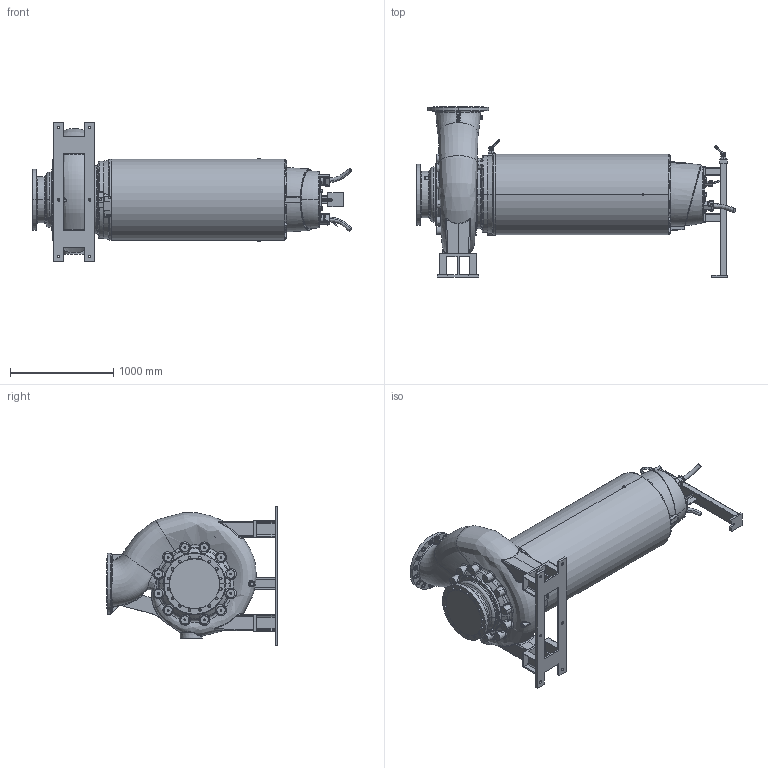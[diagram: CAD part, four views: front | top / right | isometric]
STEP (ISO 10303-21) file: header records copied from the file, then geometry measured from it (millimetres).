
FILE_DESCRIPTION (( 'STEP AP214' ), '1' );
FILE_NAME ('PE7_XFP400T-CH3_DRY HA_E.STEP', '2017-03-30T11:19:56', ( '' ), ( '' ), 'SwSTEP 2.0', 'SolidWorks 2017', '' );
FILE_SCHEMA (( 'AUTOMOTIVE_DESIGN' ));
Length unit declared in the file: millimetre
Products named in the file (1): PE7_XFP400T-CH3_DRY HA_E
Bounding box: 3093.47 x 1650 x 1350 mm (x, y, z)
Volume: 1452508393.9 mm3; surface area: 13500080.3 mm2
Topology: 5 solids, 32 shells, 3294 faces, 8211 edges, 4979 vertices
Faces by surface type: plane 1121, bspline 727, cylinder 682, torus 354, cone 302, sphere 108
Entity records: 252642 total; most frequent: CARTESIAN_POINT 143686, ORIENTED_EDGE 16168, DIRECTION 13671, EDGE_CURVE 8084, AXIS2_PLACEMENT_3D 5220, VERTEX_POINT 4975, EDGE_LOOP 3593, UNCERTAINTY_MEASURE_WITH_UNIT 3301
